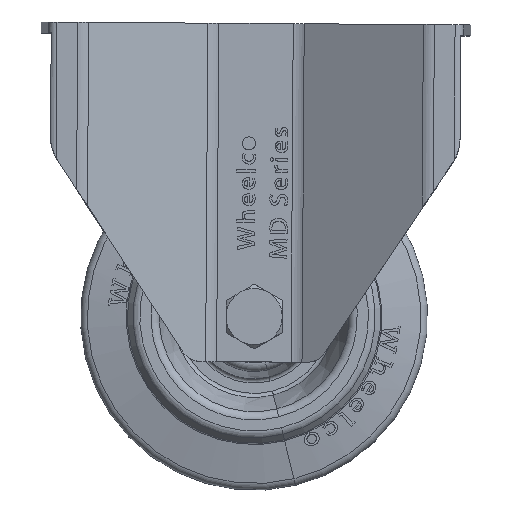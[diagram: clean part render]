
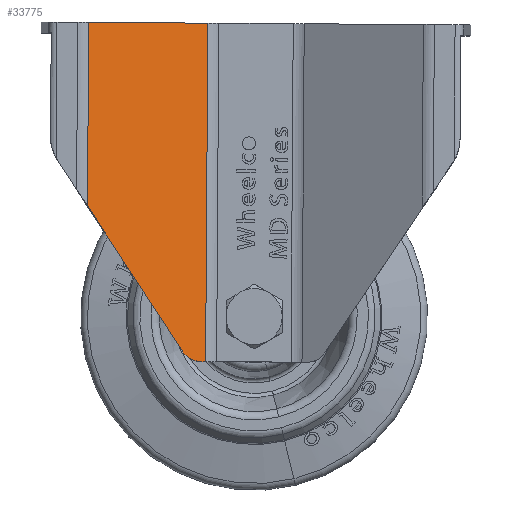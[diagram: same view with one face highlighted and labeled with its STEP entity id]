
A CAD part, top view. The second image highlights one B-rep face of the part: STEP entity #33775.
In plain terms, the highlighted planar face has unit normal (0.509, -0.003, 0.861) as drawn and (-0.509, 0, 0.861) by its records, which use the part's own axes.
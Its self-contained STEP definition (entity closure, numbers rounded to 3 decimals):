
#525 = CARTESIAN_POINT ( 'NONE',  ( 64.029, 78.5, -15.366 ) ) ;
#731 = EDGE_CURVE ( 'NONE', #40110, #22668, #21272, .T. ) ;
#817 = FACE_OUTER_BOUND ( 'NONE', #37646, .T. ) ;
#1086 =( BOUNDED_CURVE ( )  B_SPLINE_CURVE ( 3, ( #1108, #10280, #525, #38169 ),
 .UNSPECIFIED., .F., .F. ) 
 B_SPLINE_CURVE_WITH_KNOTS ( ( 4, 4 ),
 ( 0.586, 1.571 ),
 .UNSPECIFIED. ) 
 CURVE ( )  GEOMETRIC_REPRESENTATION_ITEM ( )  RATIONAL_B_SPLINE_CURVE ( ( 1., 0.921, 0.921, 1. ) ) 
 REPRESENTATION_ITEM ( '' )  );
#1108 = CARTESIAN_POINT ( 'NONE',  ( 66.483, 76.264, -13.914 ) ) ;
#1763 = ORIENTED_EDGE ( 'NONE', *, *, #16320, .F. ) ;
#2323 = CARTESIAN_POINT ( 'NONE',  ( 61.178, 78.5, -17.053 ) ) ;
#2621 = ORIENTED_EDGE ( 'NONE', *, *, #31353, .T. ) ;
#3041 = ORIENTED_EDGE ( 'NONE', *, *, #12389, .F. ) ;
#3179 = CARTESIAN_POINT ( 'NONE',  ( 88.822, 78.5, -0.697 ) ) ;
#4466 = CARTESIAN_POINT ( 'NONE',  ( 88.822, 42.583, -0.697 ) ) ;
#4676 = EDGE_CURVE ( 'NONE', #32063, #22668, #36904, .T. ) ;
#5947 = DIRECTION ( 'NONE',  ( -0.861, 0., -0.509 ) ) ;
#6967 = CARTESIAN_POINT ( 'NONE',  ( 23.337, 78.5, -39.442 ) ) ;
#6975 = EDGE_CURVE ( 'NONE', #8154, #10063, #9872, .T. ) ;
#7135 = DIRECTION ( 'NONE',  ( 0.509, 0., -0.861 ) ) ;
#7653 = VECTOR ( 'NONE', #5947, 1000. ) ;
#8154 = VERTEX_POINT ( 'NONE', #31539 ) ;
#9019 = CARTESIAN_POINT ( 'NONE',  ( 23.337, 0., -39.442 ) ) ;
#9872 = LINE ( 'NONE', #28825, #31786 ) ;
#10063 = VERTEX_POINT ( 'NONE', #4466 ) ;
#10280 = CARTESIAN_POINT ( 'NONE',  ( 65.537, 77.69, -14.474 ) ) ;
#10607 = ORIENTED_EDGE ( 'NONE', *, *, #731, .T. ) ;
#12389 = EDGE_CURVE ( 'NONE', #10063, #32063, #19260, .T. ) ;
#12947 = CARTESIAN_POINT ( 'NONE',  ( 62.316, 78.5, -16.379 ) ) ;
#16245 = ORIENTED_EDGE ( 'NONE', *, *, #6975, .F. ) ;
#16320 = EDGE_CURVE ( 'NONE', #40110, #32214, #35445, .T. ) ;
#19260 = LINE ( 'NONE', #3179, #28782 ) ;
#19560 = CARTESIAN_POINT ( 'NONE',  ( 23.337, 78.5, -39.442 ) ) ;
#21272 = LINE ( 'NONE', #2323, #31006 ) ;
#22668 = VERTEX_POINT ( 'NONE', #28092 ) ;
#27440 = CARTESIAN_POINT ( 'NONE',  ( 88.822, 0., -0.697 ) ) ;
#28092 = CARTESIAN_POINT ( 'NONE',  ( 61.178, 0., -17.053 ) ) ;
#28251 = DIRECTION ( 'NONE',  ( 0., -1., 0. ) ) ;
#28432 = DIRECTION ( 'NONE',  ( 0.525, -0.792, 0.311 ) ) ;
#28553 = PLANE ( 'NONE',  #30347 ) ;
#28782 = VECTOR ( 'NONE', #28251, 1000. ) ;
#28825 = CARTESIAN_POINT ( 'NONE',  ( 49.476, 101.906, -23.977 ) ) ;
#30347 = AXIS2_PLACEMENT_3D ( 'NONE', #19560, #7135, #31393 ) ;
#31006 = VECTOR ( 'NONE', #40180, 1000. ) ;
#31353 = EDGE_CURVE ( 'NONE', #8154, #32214, #1086, .T. ) ;
#31393 = DIRECTION ( 'NONE',  ( -0.861, 0., -0.509 ) ) ;
#31539 = CARTESIAN_POINT ( 'NONE',  ( 66.483, 76.264, -13.914 ) ) ;
#31786 = VECTOR ( 'NONE', #28432, 1000. ) ;
#32063 = VERTEX_POINT ( 'NONE', #27440 ) ;
#32214 = VERTEX_POINT ( 'NONE', #12947 ) ;
#32423 = DIRECTION ( 'NONE',  ( 0.861, 0., 0.509 ) ) ;
#33775 = ADVANCED_FACE ( 'NONE', ( #817 ), #28553, .F. ) ;
#35445 = LINE ( 'NONE', #6967, #37930 ) ;
#35981 = CARTESIAN_POINT ( 'NONE',  ( 61.178, 78.5, -17.053 ) ) ;
#36562 = ORIENTED_EDGE ( 'NONE', *, *, #4676, .F. ) ;
#36904 = LINE ( 'NONE', #9019, #7653 ) ;
#37646 = EDGE_LOOP ( 'NONE', ( #16245, #2621, #1763, #10607, #36562, #3041 ) ) ;
#37930 = VECTOR ( 'NONE', #32423, 1000. ) ;
#38169 = CARTESIAN_POINT ( 'NONE',  ( 62.316, 78.5, -16.379 ) ) ;
#40110 = VERTEX_POINT ( 'NONE', #35981 ) ;
#40180 = DIRECTION ( 'NONE',  ( 0., -1., 0. ) ) ;
